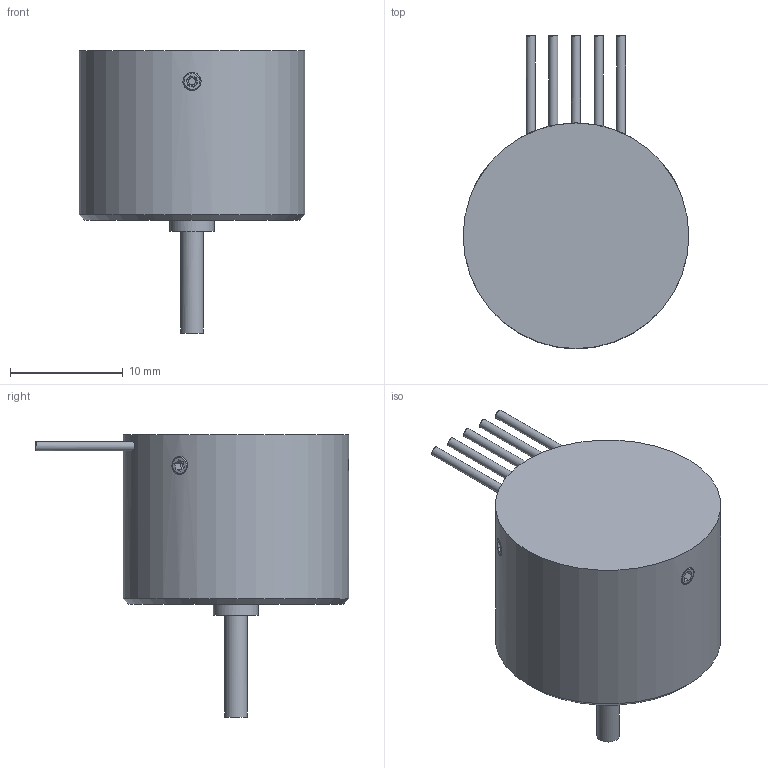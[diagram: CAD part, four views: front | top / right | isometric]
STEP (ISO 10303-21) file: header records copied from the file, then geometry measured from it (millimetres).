
FILE_DESCRIPTION(('STEP AP242'),'1');
FILE_NAME('P.stp','2025-08-19T08:44:03',(' '),(' '),'Spatial InterOp 3D',' ',' ');
FILE_SCHEMA(('AP242_MANAGED_MODEL_BASED_3D_ENGINEERING_MIM_LF {1 0 10303 442 1 1 4}'));
Length unit declared in the file: millimetre
Products named in the file (1): L8E01A MES(2)-17-＊＊＊P
Bounding box: 20 x 27.79 x 25 mm (x, y, z)
Volume: 4737.9 mm3; surface area: 1796.8 mm2
Topology: 1 solids, 1 shells, 77 faces, 167 edges, 105 vertices
Faces by surface type: plane 43, cylinder 23, cone 11
Full cylindrical faces by diameter (mm): 0.8 x5, 1.6 x7, 2 x1, 4 x1, 20 x1
Entity records: 2808 total; most frequent: CARTESIAN_POINT 600, DIRECTION 306, ORIENTED_EDGE 254, EDGE_CURVE 127, AXIS2_PLACEMENT_3D 117, EDGE_LOOP 116, VERTEX_POINT 93, FACE_OUTER_BOUND 92
